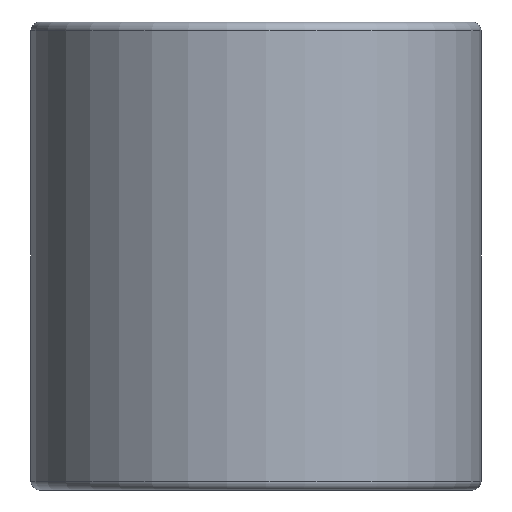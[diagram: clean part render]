
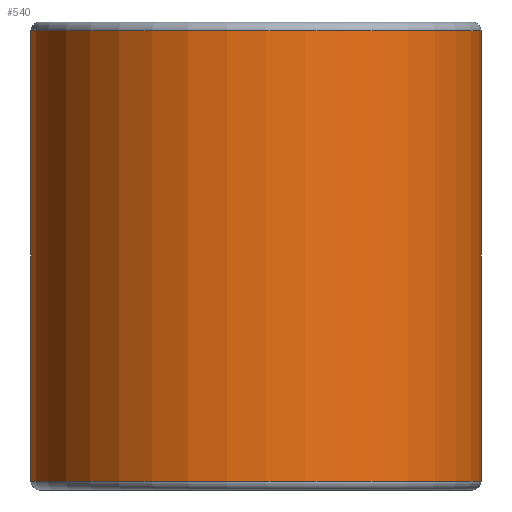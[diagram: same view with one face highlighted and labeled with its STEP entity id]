
A CAD part, front view. The second image highlights one B-rep face of the part: STEP entity #540.
In plain terms, the highlighted cylindrical face has radius 13 mm (diameter 26 mm), a full revolution.
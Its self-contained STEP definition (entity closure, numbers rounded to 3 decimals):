
#540=ADVANCED_FACE('',(#641,#642),#610,.T.);
#610=CYLINDRICAL_SURFACE('',#1375,13.);
#641=FACE_BOUND('',#713,.T.);
#642=FACE_BOUND('',#714,.T.);
#713=EDGE_LOOP('',(#825));
#714=EDGE_LOOP('',(#826));
#825=ORIENTED_EDGE('',*,*,#1173,.T.);
#826=ORIENTED_EDGE('',*,*,#1174,.T.);
#1077=VERTEX_POINT('',#1865);
#1078=VERTEX_POINT('',#1867);
#1173=EDGE_CURVE('',#1077,#1077,#1301,.T.);
#1174=EDGE_CURVE('',#1078,#1078,#1302,.T.);
#1301=CIRCLE('',#1373,13.);
#1302=CIRCLE('',#1374,13.);
#1373=AXIS2_PLACEMENT_3D('',#1864,#1530,#1531);
#1374=AXIS2_PLACEMENT_3D('',#1866,#1532,#1533);
#1375=AXIS2_PLACEMENT_3D('',#1868,#1534,#1535);
#1530=DIRECTION('',(0.,0.,-1.));
#1531=DIRECTION('',(1.,0.,0.));
#1532=DIRECTION('',(0.,0.,1.));
#1533=DIRECTION('',(1.,0.,0.));
#1534=DIRECTION('',(0.,0.,-1.));
#1535=DIRECTION('',(-1.,0.,0.));
#1864=CARTESIAN_POINT('',(0.,0.,26.5));
#1865=CARTESIAN_POINT('',(13.,0.,26.5));
#1866=CARTESIAN_POINT('',(0.,0.,0.5));
#1867=CARTESIAN_POINT('',(13.,0.,0.5));
#1868=CARTESIAN_POINT('',(0.,0.,27.));
